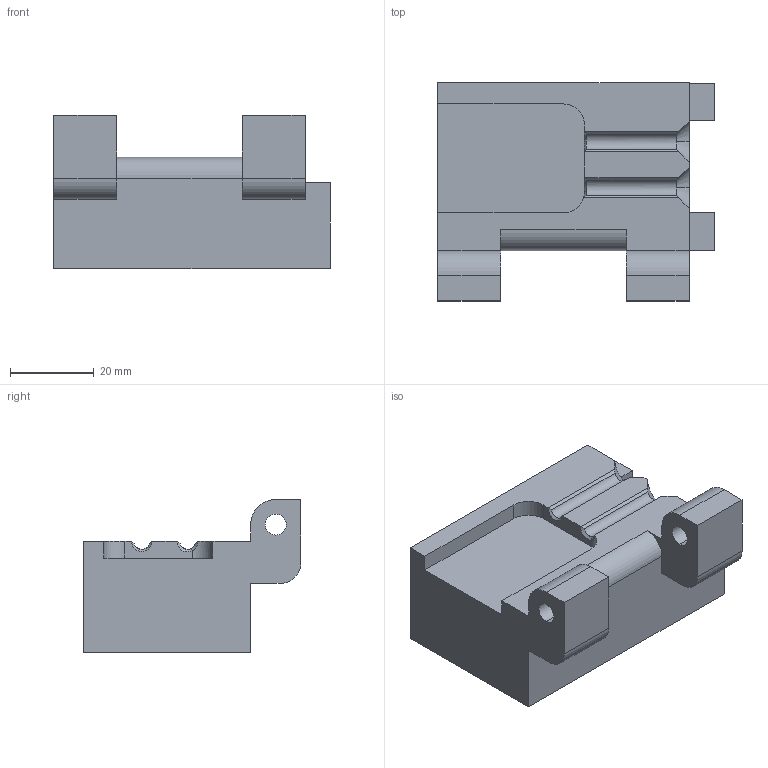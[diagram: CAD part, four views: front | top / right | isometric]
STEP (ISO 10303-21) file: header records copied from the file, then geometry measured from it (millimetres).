
FILE_DESCRIPTION (( 'STEP AP214' ), '1' );
FILE_NAME ('GZ46.06_V1下压块.STEP', '2021-06-25T03:21:06', ( '微软中国' ), ( 'Microsoft' ), 'SwSTEP 2.0', 'SolidWorks 2017', '' );
FILE_SCHEMA (( 'AUTOMOTIVE_DESIGN' ));
Length unit declared in the file: millimetre
Products named in the file (1): GZ46.06_V1狟揤輸
Bounding box: 66 x 52 x 36.5 mm (x, y, z)
Volume: 64567.7 mm3; surface area: 14818.2 mm2
Topology: 1 solids, 1 shells, 74 faces, 205 edges, 129 vertices
Faces by surface type: plane 38, cylinder 21, cone 14, bspline 1
Entity records: 2580 total; most frequent: CARTESIAN_POINT 594, ORIENTED_EDGE 394, DIRECTION 378, EDGE_CURVE 197, VECTOR 130, LINE 130, VERTEX_POINT 129, AXIS2_PLACEMENT_3D 124
